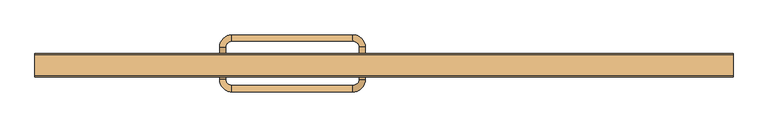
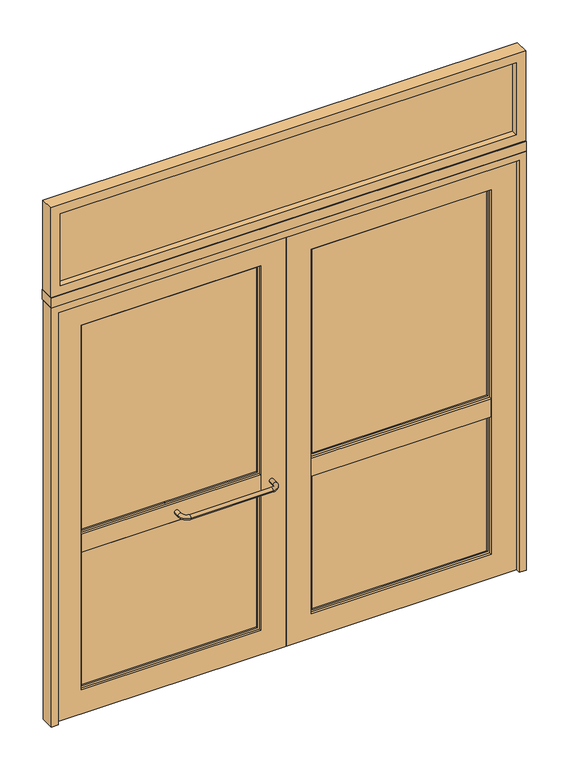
"""IFC4 building model written with IfcOpenShell, lengths in millimetres: door geometry, A1 Puerta batiente doble  VF superior : A1.3 Puerta batiente doble  VF superior 225x260."""

from ifc_helpers import new_model, si_unit, point, frame, origin, place, context, project, spatial, polyline, circle_curve, ellipse_curve, trimmed, outline, extrude, source, transform, mapped, element, save
from ifc_brep_helpers import plane_surface, cylinder_surface, revolved_surface, advanced_brep


def door_b16d659e(model_context):
    return source(origin(), model_context, "Body", "SolidModel", [
        advanced_brep(
        [(-80.0, -11.0, 855.0), (-60.0, -11.0, 855.0), (-60.0, -41.0, 855.0), (-80.0, -41.0, 855.0), (-100.0, -61.0, 855.0), (-100.0, -81.0, 855.0), (-490.0, -81.0, 855.0), (-490.0, -61.0, 855.0), (-510.0, -41.0, 855.0), (-530.0, -41.0, 855.0), (-510.0, -11.0, 855.0), (-530.0, -11.0, 855.0)],
        [
            (0, 1, circle_curve(frame((-70.0, -11.0, 855.0), z_axis=(0.0, 1.0, 0.0), x_axis=(1.0, 0.0, 0.0)), 10.0)),
            (1, 0, circle_curve(frame((-70.0, -11.0, 855.0), z_axis=(0.0, 1.0, 0.0), x_axis=(1.0, 0.0, 0.0)), 10.0)),
            (1, 2),
            (2, 3, circle_curve(frame((-70.0, -41.0, 855.0), z_axis=(0.0, 1.0, 0.0), x_axis=(1.0, 0.0, 0.0)), 10.0)),
            (3, 0),
            (3, 2, circle_curve(frame((-70.0, -41.0, 855.0), z_axis=(0.0, 1.0, 0.0), x_axis=(1.0, 0.0, 0.0)), 10.0)),
            (4, 3, circle_curve(frame((-100.0, -41.0, 855.0), z_axis=(0.0, 0.0, 1.0), x_axis=(1.0, 0.0, 0.0)), 20.0)),
            (2, 5, circle_curve(frame((-100.0, -41.0, 855.0), z_axis=(0.0, 0.0, -1.0), x_axis=(1.0, 0.0, 0.0)), 40.0)),
            (5, 4, circle_curve(frame((-100.0, -71.0, 855.0), z_axis=(1.0, 0.0, 0.0), x_axis=(0.0, -1.0, 0.0)), 10.0)),
            (4, 5, circle_curve(frame((-100.0, -71.0, 855.0), z_axis=(1.0, 0.0, 0.0), x_axis=(0.0, -1.0, 0.0)), 10.0)),
            (5, 6),
            (6, 7, circle_curve(frame((-490.0, -71.0, 855.0), z_axis=(1.0, 0.0, 0.0), x_axis=(0.0, -1.0, 0.0)), 10.0)),
            (7, 4),
            (7, 6, circle_curve(frame((-490.0, -71.0, 855.0), z_axis=(1.0, 0.0, 0.0), x_axis=(0.0, -1.0, 0.0)), 10.0)),
            (8, 7, circle_curve(frame((-490.0, -41.0, 855.0), z_axis=(0.0, 0.0, 1.0), x_axis=(0.0, -1.0, 0.0)), 20.0)),
            (6, 9, circle_curve(frame((-490.0, -41.0, 855.0), z_axis=(0.0, 0.0, -1.0), x_axis=(0.0, -1.0, 0.0)), 40.0)),
            (9, 8, circle_curve(frame((-520.0, -41.0, 855.0), z_axis=(0.0, -1.0, 0.0), x_axis=(-1.0, 0.0, 0.0)), 10.0)),
            (8, 9, circle_curve(frame((-520.0, -41.0, 855.0), z_axis=(0.0, -1.0, 0.0), x_axis=(-1.0, 0.0, 0.0)), 10.0)),
            (10, 11, circle_curve(frame((-520.0, -11.0, 855.0), z_axis=(0.0, 1.0, 0.0), x_axis=(-1.0, 0.0, 0.0)), 10.0)),
            (11, 10, circle_curve(frame((-520.0, -11.0, 855.0), z_axis=(0.0, 1.0, 0.0), x_axis=(-1.0, 0.0, 0.0)), 10.0)),
            (9, 11),
            (10, 8),
        ],
        [
            plane_surface(frame((-70.0, -11.0, 855.0), z_axis=(0.0, 1.0, 0.0), x_axis=(0.0, 0.0, 1.0))),
            cylinder_surface(frame((-70.0, -11.0, 855.0), z_axis=(0.0, 1.0, 0.0), x_axis=(1.0, 0.0, 0.0)), 10.0),
            revolved_surface(trimmed(ellipse_curve(frame((-70.0, -41.0, 855.0), z_axis=(0.0, 1.0, 0.0), x_axis=(1.0, 0.0, 0.0)), 10.0, 10.0), [point((-60.0, -41.0, 855.0))], [point((-80.0, -41.0, 855.0))], True, "CARTESIAN"), (-100.0, -41.0, 855.0), (0.0, 0.0, -1.0)),
            revolved_surface(trimmed(ellipse_curve(frame((-70.0, -41.0, 855.0), z_axis=(0.0, 1.0, 0.0), x_axis=(1.0, 0.0, 0.0)), 10.0, 10.0), [point((-80.0, -41.0, 855.0))], [point((-60.0, -41.0, 855.0))], True, "CARTESIAN"), (-100.0, -41.0, 855.0), (0.0, 0.0, -1.0)),
            cylinder_surface(frame((-100.0, -71.0, 855.0), z_axis=(1.0, 0.0, 0.0), x_axis=(0.0, -1.0, 0.0)), 10.0),
            revolved_surface(trimmed(ellipse_curve(frame((-490.0, -71.0, 855.0), z_axis=(1.0, 0.0, 0.0), x_axis=(0.0, -1.0, 0.0)), 10.0, 10.0), [point((-490.0, -81.0, 855.0))], [point((-490.0, -61.0, 855.0))], True, "CARTESIAN"), (-490.0, -41.0, 855.0), (0.0, 0.0, -1.0)),
            revolved_surface(trimmed(ellipse_curve(frame((-490.0, -71.0, 855.0), z_axis=(1.0, 0.0, 0.0), x_axis=(0.0, -1.0, 0.0)), 10.0, 10.0), [point((-490.0, -61.0, 855.0))], [point((-490.0, -81.0, 855.0))], True, "CARTESIAN"), (-490.0, -41.0, 855.0), (0.0, 0.0, -1.0)),
            plane_surface(frame((-520.0, -11.0, 855.0), z_axis=(0.0, 1.0, 0.0), x_axis=(0.0, 0.0, 1.0))),
            cylinder_surface(frame((-520.0, -41.0, 855.0), z_axis=(0.0, -1.0, 0.0), x_axis=(-1.0, 0.0, 0.0)), 10.0),
        ],
        [
            (0, [[1, 2]]),
            (1, [[-2, 3, 4, 5]]),
            (1, [[-1, -5, 6, -3]]),
            (2, [[7, -4, 8, 9]]),
            (3, [[-8, -6, -7, 10]]),
            (4, [[-9, 11, 12, 13]]),
            (4, [[-10, -13, 14, -11]]),
            (5, [[15, -12, 16, 17]]),
            (6, [[-16, -14, -15, 18]]),
            (7, [[19, 20]]),
            (8, [[-17, 21, -19, 22]]),
            (8, [[-18, -22, -20, -21]]),
        ],
    ),
        advanced_brep(
        [(-60.0, 33.0, 855.0), (-80.0, 33.0, 855.0), (-60.0, 63.0, 855.0), (-80.0, 63.0, 855.0), (-100.0, 83.0, 855.0), (-100.0, 103.0, 855.0), (-490.0, 103.0, 855.0), (-490.0, 83.0, 855.0), (-510.0, 63.0, 855.0), (-530.0, 63.0, 855.0), (-530.0, 33.0, 855.0), (-510.0, 33.0, 855.0)],
        [
            (0, 1, circle_curve(frame((-70.0, 33.0, 855.0), z_axis=(0.0, -1.0, 0.0), x_axis=(-1.0, 0.0, 0.0)), 10.0)),
            (1, 0, circle_curve(frame((-70.0, 33.0, 855.0), z_axis=(0.0, -1.0, 0.0), x_axis=(-1.0, 0.0, 0.0)), 10.0)),
            (0, 2),
            (2, 3, circle_curve(frame((-70.0, 63.0, 855.0), z_axis=(0.0, -1.0, 0.0), x_axis=(-1.0, 0.0, 0.0)), 10.0)),
            (3, 1),
            (3, 2, circle_curve(frame((-70.0, 63.0, 855.0), z_axis=(0.0, -1.0, 0.0), x_axis=(-1.0, 0.0, 0.0)), 10.0)),
            (4, 3, circle_curve(frame((-100.0, 63.0, 855.0), z_axis=(0.0, 0.0, -1.0), x_axis=(1.0, 0.0, 0.0)), 20.0)),
            (2, 5, circle_curve(frame((-100.0, 63.0, 855.0), z_axis=(0.0, 0.0, 1.0), x_axis=(1.0, 0.0, 0.0)), 40.0)),
            (5, 4, circle_curve(frame((-100.0, 93.0, 855.0), z_axis=(1.0, 0.0, 0.0), x_axis=(0.0, -1.0, 0.0)), 10.0)),
            (4, 5, circle_curve(frame((-100.0, 93.0, 855.0), z_axis=(1.0, 0.0, 0.0), x_axis=(0.0, -1.0, 0.0)), 10.0)),
            (5, 6),
            (6, 7, circle_curve(frame((-490.0, 93.0, 855.0), z_axis=(1.0, 0.0, 0.0), x_axis=(0.0, -1.0, 0.0)), 10.0)),
            (7, 4),
            (7, 6, circle_curve(frame((-490.0, 93.0, 855.0), z_axis=(1.0, 0.0, 0.0), x_axis=(0.0, -1.0, 0.0)), 10.0)),
            (8, 7, circle_curve(frame((-490.0, 63.0, 855.0), z_axis=(0.0, 0.0, -1.0), x_axis=(0.0, 1.0, 0.0)), 20.0)),
            (6, 9, circle_curve(frame((-490.0, 63.0, 855.0), z_axis=(0.0, 0.0, 1.0), x_axis=(0.0, 1.0, 0.0)), 40.0)),
            (9, 8, circle_curve(frame((-520.0, 63.0, 855.0), z_axis=(0.0, 1.0, 0.0), x_axis=(1.0, 0.0, 0.0)), 10.0)),
            (8, 9, circle_curve(frame((-520.0, 63.0, 855.0), z_axis=(0.0, 1.0, 0.0), x_axis=(1.0, 0.0, 0.0)), 10.0)),
            (10, 11, circle_curve(frame((-520.0, 33.0, 855.0), z_axis=(0.0, -1.0, 0.0), x_axis=(1.0, 0.0, 0.0)), 10.0)),
            (11, 10, circle_curve(frame((-520.0, 33.0, 855.0), z_axis=(0.0, -1.0, 0.0), x_axis=(1.0, 0.0, 0.0)), 10.0)),
            (9, 10),
            (11, 8),
        ],
        [
            plane_surface(frame((-70.0, 33.0, 855.0), z_axis=(0.0, -1.0, 0.0), x_axis=(0.0, 0.0, 1.0))),
            cylinder_surface(frame((-70.0, 33.0, 855.0), z_axis=(0.0, -1.0, 0.0), x_axis=(-1.0, 0.0, 0.0)), 10.0),
            revolved_surface(trimmed(ellipse_curve(frame((-70.0, 63.0, 855.0), z_axis=(0.0, -1.0, 0.0), x_axis=(-1.0, 0.0, 0.0)), 10.0, 10.0), [point((-60.0, 63.0, 855.0))], [point((-80.0, 63.0, 855.0))], True, "CARTESIAN"), (-100.0, 63.0, 855.0), (0.0, 0.0, 1.0)),
            revolved_surface(trimmed(ellipse_curve(frame((-70.0, 63.0, 855.0), z_axis=(0.0, -1.0, 0.0), x_axis=(-1.0, 0.0, 0.0)), 10.0, 10.0), [point((-80.0, 63.0, 855.0))], [point((-60.0, 63.0, 855.0))], True, "CARTESIAN"), (-100.0, 63.0, 855.0), (0.0, 0.0, 1.0)),
            cylinder_surface(frame((-100.0, 93.0, 855.0), z_axis=(1.0, 0.0, 0.0), x_axis=(0.0, -1.0, 0.0)), 10.0),
            revolved_surface(trimmed(ellipse_curve(frame((-490.0, 93.0, 855.0), z_axis=(1.0, 0.0, 0.0), x_axis=(0.0, -1.0, 0.0)), 10.0, 10.0), [point((-490.0, 103.0, 855.0))], [point((-490.0, 83.0, 855.0))], True, "CARTESIAN"), (-490.0, 63.0, 855.0), (0.0, 0.0, 1.0)),
            revolved_surface(trimmed(ellipse_curve(frame((-490.0, 93.0, 855.0), z_axis=(1.0, 0.0, 0.0), x_axis=(0.0, -1.0, 0.0)), 10.0, 10.0), [point((-490.0, 83.0, 855.0))], [point((-490.0, 103.0, 855.0))], True, "CARTESIAN"), (-490.0, 63.0, 855.0), (0.0, 0.0, 1.0)),
            plane_surface(frame((-520.0, 33.0, 855.0), z_axis=(0.0, -1.0, 0.0), x_axis=(0.0, 0.0, 1.0))),
            cylinder_surface(frame((-520.0, 63.0, 855.0), z_axis=(0.0, 1.0, 0.0), x_axis=(1.0, 0.0, 0.0)), 10.0),
        ],
        [
            (0, [[1, 2]]),
            (1, [[-1, 3, 4, 5]]),
            (1, [[-2, -5, 6, -3]]),
            (2, [[7, -4, 8, 9]]),
            (3, [[-8, -6, -7, 10]]),
            (4, [[-9, 11, 12, 13]]),
            (4, [[-10, -13, 14, -11]]),
            (5, [[15, -12, 16, 17]]),
            (6, [[-16, -14, -15, 18]]),
            (7, [[19, 20]]),
            (8, [[-17, 21, -20, 22]]),
            (8, [[-18, -22, -19, -21]]),
        ],
    ),
        extrude(outline(polyline([(1080.0, 1.5), (-1080.0, 1.5), (-1080.0, 7.5), (1080.0, 7.5), (1080.0, 1.5)])), frame((0.0, 0.0, 2195.0), z_axis=(0.0, 0.0, 1.0), x_axis=(1.0, 0.0, 0.0)), (0.0, 0.0, 1.0), 360.0),
        extrude(outline(polyline([(2600.0, -1125.0), (2150.0, -1125.0), (2150.0, 1125.0), (2600.0, 1125.0), (2600.0, -1125.0)]), holes=[polyline([(2555.0, -1080.0), (2555.0, 1080.0), (2195.0, 1080.0), (2195.0, -1080.0), (2555.0, -1080.0)])]), frame((0.0, -28.5, 0.0), z_axis=(0.0, 1.0, 0.0), x_axis=(0.0, 0.0, 1.0)), (0.0, 0.0, 1.0), 66.0),
        extrude(outline(polyline([(-130.0, 8.0), (-962.0, 8.0), (-962.0, 14.0), (-130.0, 14.0), (-130.0, 8.0)])), frame((0.0, 0.0, 910.0), z_axis=(0.0, 0.0, 1.0), x_axis=(1.0, 0.0, 0.0)), (0.0, 0.0, 1.0), 1027.0),
        extrude(outline(polyline([(-130.0, 8.0), (-962.0, 8.0), (-962.0, 14.0), (-130.0, 14.0), (-130.0, 8.0)])), frame((0.0, 0.0, 130.0), z_axis=(0.0, 0.0, 1.0), x_axis=(1.0, 0.0, 0.0)), (0.0, 0.0, 1.0), 670.0),
        extrude(outline(polyline([(1947.0, -972.0), (900.0, -972.0), (900.0, -120.0), (1947.0, -120.0), (1947.0, -972.0)]), holes=[polyline([(1937.0, -962.0), (1937.0, -130.0), (910.0, -130.0), (910.0, -962.0), (1937.0, -962.0)])]), frame((0.0, 1.0, 0.0), z_axis=(0.0, 1.0, 0.0), x_axis=(0.0, 0.0, 1.0)), (0.0, 0.0, 1.0), 20.0),
        extrude(outline(polyline([(810.0, -972.0), (120.0, -972.0), (120.0, -120.0), (810.0, -120.0), (810.0, -972.0)]), holes=[polyline([(800.0, -962.0), (800.0, -130.0), (130.0, -130.0), (130.0, -962.0), (800.0, -962.0)])]), frame((0.0, 1.0, 0.0), z_axis=(0.0, 1.0, 0.0), x_axis=(0.0, 0.0, 1.0)), (0.0, 0.0, 1.0), 20.0),
        extrude(outline(polyline([(-120.0, -11.0), (-972.0, -11.0), (-972.0, 33.0), (-120.0, 33.0), (-120.0, -11.0)])), frame((0.0, 0.0, 810.0), z_axis=(0.0, 0.0, 1.0), x_axis=(1.0, 0.0, 0.0)), (0.0, 0.0, 1.0), 90.0),
        extrude(outline(polyline([(2067.0, -1092.0), (0.0, -1092.0), (0.0, 0.0), (2067.0, 0.0), (2067.0, -1092.0)]), holes=[polyline([(1947.0, -972.0), (1947.0, -120.0), (120.0, -120.0), (120.0, -972.0), (1947.0, -972.0)])]), frame((0.0, -11.0, 0.0), z_axis=(0.0, 1.0, 0.0), x_axis=(0.0, 0.0, 1.0)), (0.0, 0.0, 1.0), 44.0),
        extrude(outline(polyline([(962.0, 8.0), (130.0, 8.0), (130.0, 14.0), (962.0, 14.0), (962.0, 8.0)])), frame((0.0, 0.0, 910.0), z_axis=(0.0, 0.0, 1.0), x_axis=(1.0, 0.0, 0.0)), (0.0, 0.0, 1.0), 1027.0),
        extrude(outline(polyline([(962.0, 8.0), (130.0, 8.0), (130.0, 14.0), (962.0, 14.0), (962.0, 8.0)])), frame((0.0, 0.0, 130.0), z_axis=(0.0, 0.0, 1.0), x_axis=(1.0, 0.0, 0.0)), (0.0, 0.0, 1.0), 670.0),
        extrude(outline(polyline([(1947.0, 120.0), (900.0, 120.0), (900.0, 972.0), (1947.0, 972.0), (1947.0, 120.0)]), holes=[polyline([(1937.0, 130.0), (1937.0, 962.0), (910.0, 962.0), (910.0, 130.0), (1937.0, 130.0)])]), frame((0.0, 1.0, 0.0), z_axis=(0.0, 1.0, 0.0), x_axis=(0.0, 0.0, 1.0)), (0.0, 0.0, 1.0), 20.0),
        extrude(outline(polyline([(810.0, 120.0), (120.0, 120.0), (120.0, 972.0), (810.0, 972.0), (810.0, 120.0)]), holes=[polyline([(800.0, 130.0), (800.0, 962.0), (130.0, 962.0), (130.0, 130.0), (800.0, 130.0)])]), frame((0.0, 1.0, 0.0), z_axis=(0.0, 1.0, 0.0), x_axis=(0.0, 0.0, 1.0)), (0.0, 0.0, 1.0), 20.0),
        extrude(outline(polyline([(972.0, -11.0), (120.0, -11.0), (120.0, 33.0), (972.0, 33.0), (972.0, -11.0)])), frame((0.0, 0.0, 810.0), z_axis=(0.0, 0.0, 1.0), x_axis=(1.0, 0.0, 0.0)), (0.0, 0.0, 1.0), 90.0),
        extrude(outline(polyline([(2067.0, 0.0), (0.0, 0.0), (0.0, 1092.0), (2067.0, 1092.0), (2067.0, 0.0)]), holes=[polyline([(1947.0, 120.0), (1947.0, 972.0), (120.0, 972.0), (120.0, 120.0), (1947.0, 120.0)])]), frame((0.0, -11.0, 0.0), z_axis=(0.0, 1.0, 0.0), x_axis=(0.0, 0.0, 1.0)), (0.0, 0.0, 1.0), 44.0),
        extrude(outline(polyline([(2100.0, 1125.0), (2100.0, -1125.0), (0.0, -1125.0), (0.0, -1092.0), (2067.0, -1092.0), (2067.0, 1092.0), (0.0, 1092.0), (0.0, 1125.0), (2100.0, 1125.0)])), frame((0.0, -33.0, 0.0), z_axis=(0.0, 1.0, 0.0), x_axis=(0.0, 0.0, 1.0)), (0.0, 0.0, 1.0), 66.0),
        extrude(outline(polyline([(1125.0, -33.0), (-1125.0, -33.0), (-1125.0, 42.0), (1125.0, 42.0), (1125.0, -33.0)])), frame((0.0, 0.0, 2100.0), z_axis=(0.0, 0.0, 1.0), x_axis=(1.0, 0.0, 0.0)), (0.0, 0.0, 1.0), 50.0),
    ])


if __name__ == "__main__":
    model = new_model("IFC4")
    model_context = context("Model", 3, world=origin())
    ifc_project = project(units=[si_unit("LENGTHUNIT", "METRE", prefix="MILLI")], contexts=[model_context])
    site = spatial("IfcSite", under=ifc_project)
    building = spatial("IfcBuilding", under=site)
    placement = place(None, origin())
    door_shape = door_b16d659e(model_context)
    element("IfcDoor", 1, ObjectType="A1 Puerta batiente doble  VF superior : A1.3 Puerta batiente doble  VF superior 225x260", at=placement, inside=building, context=model_context, shape_type="MappedRepresentation", body=[
        mapped(door_shape, transform((0.0, 0.0, 0.0), x_axis=(1.0, 0.0, 0.0), y_axis=(0.0, 1.0, 0.0), z_axis=(0.0, 0.0, 1.0))),
    ])
    save(model, "model.ifc")
